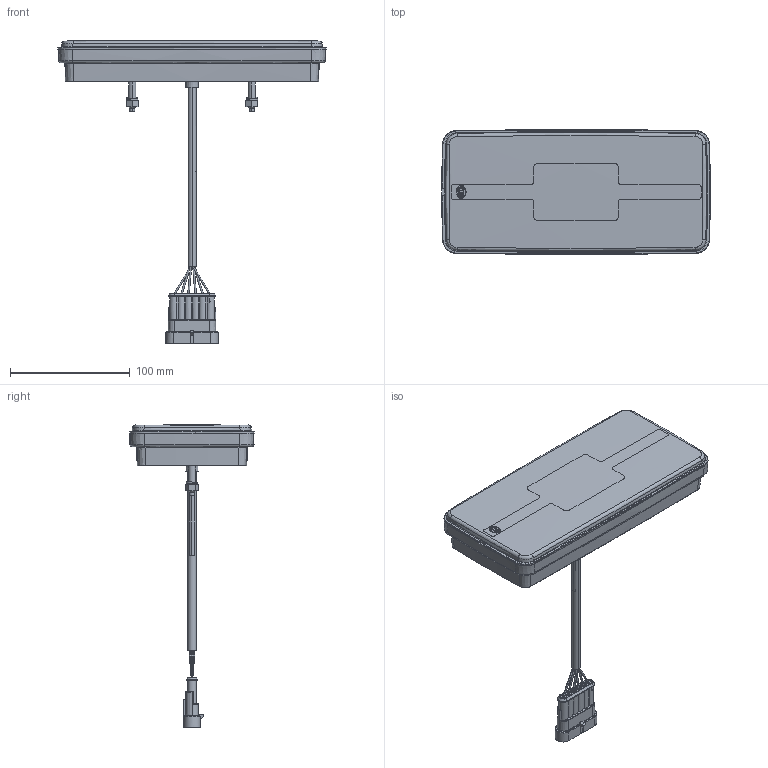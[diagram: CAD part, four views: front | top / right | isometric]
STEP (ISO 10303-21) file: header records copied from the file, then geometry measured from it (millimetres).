
FILE_DESCRIPTION(('CATIA V5 STEP Exchange','CAx-IF Rec.Pracs.--- Model Styling and Organization---1.5--- 2016-08-15','CAx-IF Rec.Pracs.---Supplemental Geometry---1.0---2011-11-01','CAx-IF Rec.Pracs.---Representation and Presentation of Product Manufacturing Information (PMI)---4.0---2014-10-13','CAx-IF Rec.Pracs.--- Composite Materials ---3.4---2017-06-13','CAx-IF Rec.Pracs.---Tessellated 3D Geometry---1.0---2015-12-17'),'2;1');
FILE_NAME('C:\Users\kumaan57\FORVIA\Welcome to the SOE Marketing Team Site - 03_3D data + mounting instruction\New folder\10003966017_D10_001_Compact_RCL_AMP.stp','2026-05-21T08:48:49+00:00',('none'),('none'),'CATIA Version 5-6 Release 2024 SP3 HF29','CATIA V5 STEP AP242 v3','none');
FILE_SCHEMA(('AP242_MANAGED_MODEL_BASED_3D_ENGINEERING_MIM_LF {1 0 10303 442 3 1 4}'));
Length unit declared in the file: millimetre
Products named in the file (1): 10003966017_D10_001
Bounding box: 224.51 x 104.54 x 253.27 mm (x, y, z)
Volume: 658974.4 mm3; surface area: 92293.5 mm2
Topology: 13 solids, 13 shells, 4575 faces, 11921 edges, 7392 vertices
Faces by surface type: plane 2225, bspline 841, cylinder 592, extrusion 509, torus 208, cone 173, sphere 16, revolution 11
Entity records: 176713 total; most frequent: CARTESIAN_POINT 81116, ORIENTED_EDGE 23412, DIRECTION 12550, EDGE_CURVE 11706, VERTEX_POINT 7392, VECTOR 6553, LINE 6044, B_SPLINE_CURVE_WITH_KNOTS 4949
